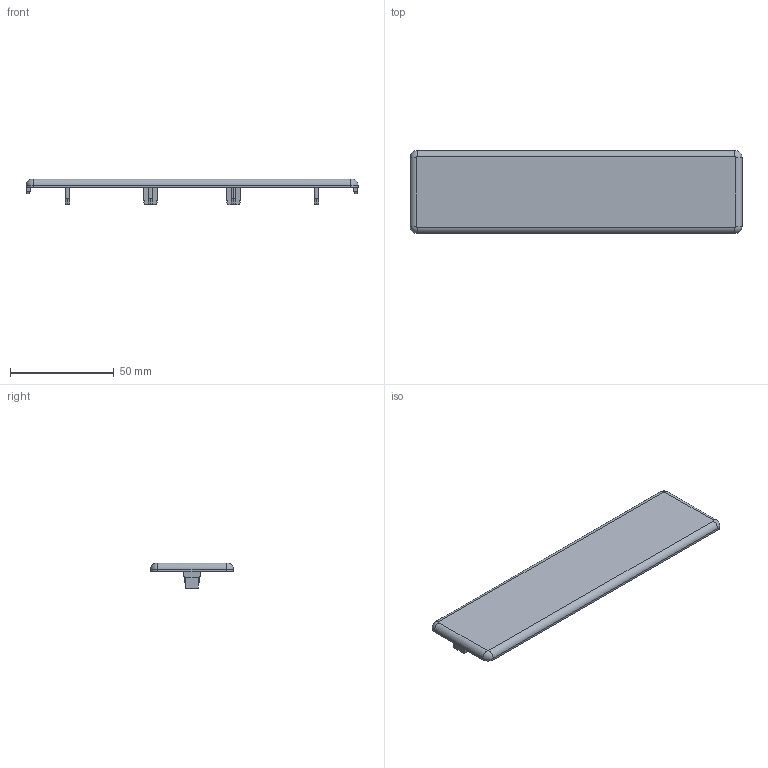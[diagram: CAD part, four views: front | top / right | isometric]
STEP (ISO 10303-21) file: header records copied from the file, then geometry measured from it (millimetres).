
FILE_DESCRIPTION (( 'STEP AP203' ), '1' );
FILE_NAME ('0108AK16040.STEP', '2024-03-07T10:25:13', ( 'Windows-Benutzer' ), ( '' ), 'SwSTEP 2.0', 'SolidWorks 2023', '' );
FILE_SCHEMA (( 'CONFIG_CONTROL_DESIGN' ));
Length unit declared in the file: millimetre
Products named in the file (1): 0108AK16040
Bounding box: 160 x 40 x 12.5 mm (x, y, z)
Volume: 20333.4 mm3; surface area: 15118.2 mm2
Topology: 1 solids, 1 shells, 109 faces, 290 edges, 190 vertices
Faces by surface type: plane 45, cylinder 28, bspline 16, cone 16, torus 4
Entity records: 3735 total; most frequent: CARTESIAN_POINT 1082, ORIENTED_EDGE 580, DIRECTION 492, EDGE_CURVE 290, VERTEX_POINT 190, AXIS2_PLACEMENT_3D 176, LINE 140, VECTOR 140
